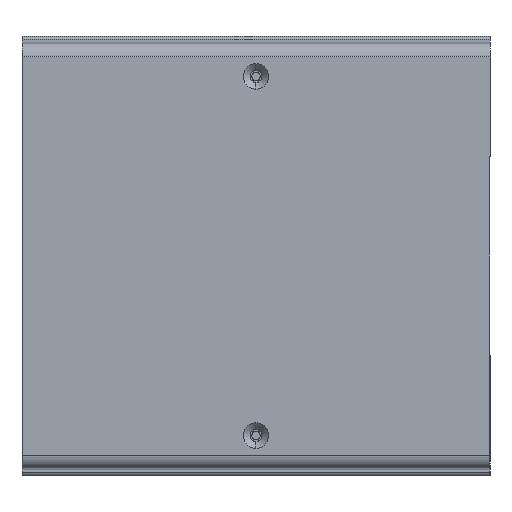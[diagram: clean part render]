
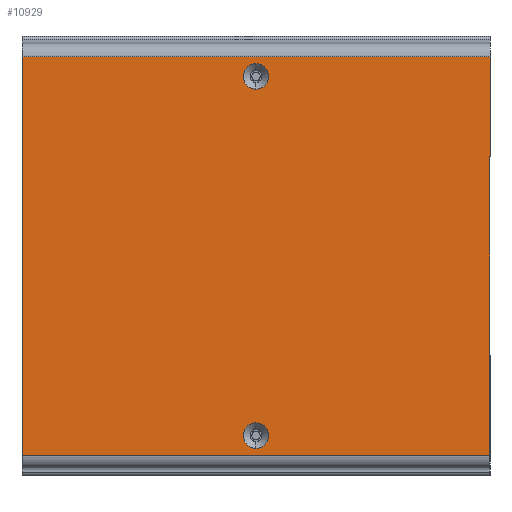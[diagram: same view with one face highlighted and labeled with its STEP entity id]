
A CAD part, front view. The second image highlights one B-rep face of the part: STEP entity #10929.
In plain terms, the highlighted planar face has unit normal (0, -1, 0).
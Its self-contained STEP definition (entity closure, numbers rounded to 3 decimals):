
#22 = CARTESIAN_POINT ( 'NONE',  ( 0., 0., 52.8 ) ) ;
#99 = CARTESIAN_POINT ( 'NONE',  ( 0., 0., 49.05 ) ) ;
#519 = DIRECTION ( 'NONE',  ( 0., 1., 0. ) ) ;
#740 = ORIENTED_EDGE ( 'NONE', *, *, #10248, .T. ) ;
#946 = CARTESIAN_POINT ( 'NONE',  ( -68.8, 0., -63. ) ) ;
#955 = EDGE_CURVE ( 'NONE', #7701, #10399, #10301, .T. ) ;
#974 = EDGE_LOOP ( 'NONE', ( #10434, #740, #7315, #4525 ) ) ;
#1003 = VECTOR ( 'NONE', #10428, 1000. ) ;
#1266 = DIRECTION ( 'NONE',  ( 0., 0., 1. ) ) ;
#1711 = CARTESIAN_POINT ( 'NONE',  ( 0., 0., -56.55 ) ) ;
#1760 = VECTOR ( 'NONE', #2900, 1000. ) ;
#1911 = EDGE_CURVE ( 'NONE', #2581, #7980, #5297, .T. ) ;
#2010 = LINE ( 'NONE', #8538, #7130 ) ;
#2216 = CARTESIAN_POINT ( 'NONE',  ( 68.8, 0., 58.537 ) ) ;
#2376 = CARTESIAN_POINT ( 'NONE',  ( 68.8, 0., -58.537 ) ) ;
#2581 = VERTEX_POINT ( 'NONE', #5427 ) ;
#2896 = DIRECTION ( 'NONE',  ( 0., 1., 0. ) ) ;
#2900 = DIRECTION ( 'NONE',  ( 0., 0., 1. ) ) ;
#3063 = CARTESIAN_POINT ( 'NONE',  ( -68.8, 0., -58.537 ) ) ;
#3421 = DIRECTION ( 'NONE',  ( 0., 1., 0. ) ) ;
#3484 = DIRECTION ( 'NONE',  ( 0., 0., 1. ) ) ;
#3550 = AXIS2_PLACEMENT_3D ( 'NONE', #22, #2896, #10381 ) ;
#3678 = CARTESIAN_POINT ( 'NONE',  ( -68.8, 0., 58.537 ) ) ;
#3712 = EDGE_LOOP ( 'NONE', ( #10862, #6698 ) ) ;
#3870 = LINE ( 'NONE', #946, #1760 ) ;
#4456 = VERTEX_POINT ( 'NONE', #9706 ) ;
#4496 = EDGE_CURVE ( 'NONE', #6724, #5555, #11024, .T. ) ;
#4525 = ORIENTED_EDGE ( 'NONE', *, *, #10756, .T. ) ;
#4719 = DIRECTION ( 'NONE',  ( 1., 0., 0. ) ) ;
#5297 = CIRCLE ( 'NONE', #3550, 3.75 ) ;
#5366 = FACE_OUTER_BOUND ( 'NONE', #974, .T. ) ;
#5397 = CARTESIAN_POINT ( 'NONE',  ( 0., 0., 52.8 ) ) ;
#5427 = CARTESIAN_POINT ( 'NONE',  ( 0., 0., 56.55 ) ) ;
#5450 = EDGE_CURVE ( 'NONE', #7980, #2581, #9481, .T. ) ;
#5459 = DIRECTION ( 'NONE',  ( 0., 0., 1. ) ) ;
#5555 = VERTEX_POINT ( 'NONE', #8107 ) ;
#6355 = ORIENTED_EDGE ( 'NONE', *, *, #1911, .T. ) ;
#6402 = CIRCLE ( 'NONE', #7580, 3.75 ) ;
#6533 = AXIS2_PLACEMENT_3D ( 'NONE', #5397, #10012, #5459 ) ;
#6663 = CARTESIAN_POINT ( 'NONE',  ( 68.8, 0., -63. ) ) ;
#6698 = ORIENTED_EDGE ( 'NONE', *, *, #7394, .T. ) ;
#6724 = VERTEX_POINT ( 'NONE', #1711 ) ;
#7091 = FACE_BOUND ( 'NONE', #10265, .T. ) ;
#7092 = DIRECTION ( 'NONE',  ( 0., 1., 0. ) ) ;
#7130 = VECTOR ( 'NONE', #4719, 1000. ) ;
#7157 = CARTESIAN_POINT ( 'NONE',  ( 0., 0., -52.8 ) ) ;
#7218 = PLANE ( 'NONE',  #10492 ) ;
#7315 = ORIENTED_EDGE ( 'NONE', *, *, #955, .F. ) ;
#7394 = EDGE_CURVE ( 'NONE', #5555, #6724, #6402, .T. ) ;
#7580 = AXIS2_PLACEMENT_3D ( 'NONE', #7157, #7092, #10926 ) ;
#7701 = VERTEX_POINT ( 'NONE', #2216 ) ;
#7980 = VERTEX_POINT ( 'NONE', #99 ) ;
#8107 = CARTESIAN_POINT ( 'NONE',  ( 0., 0., -49.05 ) ) ;
#8538 = CARTESIAN_POINT ( 'NONE',  ( -68.8, 0., -58.537 ) ) ;
#8903 = VECTOR ( 'NONE', #11185, 1000. ) ;
#9189 = EDGE_CURVE ( 'NONE', #10813, #4456, #3870, .T. ) ;
#9481 = CIRCLE ( 'NONE', #6533, 3.75 ) ;
#9706 = CARTESIAN_POINT ( 'NONE',  ( -68.8, 0., 58.537 ) ) ;
#10012 = DIRECTION ( 'NONE',  ( 0., 1., 0. ) ) ;
#10248 = EDGE_CURVE ( 'NONE', #10813, #10399, #2010, .T. ) ;
#10265 = EDGE_LOOP ( 'NONE', ( #12053, #6355 ) ) ;
#10301 = LINE ( 'NONE', #6663, #1003 ) ;
#10381 = DIRECTION ( 'NONE',  ( 0., 0., 1. ) ) ;
#10399 = VERTEX_POINT ( 'NONE', #2376 ) ;
#10428 = DIRECTION ( 'NONE',  ( 0., 0., -1. ) ) ;
#10434 = ORIENTED_EDGE ( 'NONE', *, *, #9189, .F. ) ;
#10492 = AXIS2_PLACEMENT_3D ( 'NONE', #10925, #3421, #3484 ) ;
#10643 = AXIS2_PLACEMENT_3D ( 'NONE', #11640, #519, #1266 ) ;
#10756 = EDGE_CURVE ( 'NONE', #7701, #4456, #12118, .T. ) ;
#10813 = VERTEX_POINT ( 'NONE', #3063 ) ;
#10855 = FACE_BOUND ( 'NONE', #3712, .T. ) ;
#10862 = ORIENTED_EDGE ( 'NONE', *, *, #4496, .T. ) ;
#10925 = CARTESIAN_POINT ( 'NONE',  ( -68.8, 0., 63. ) ) ;
#10926 = DIRECTION ( 'NONE',  ( 0., 0., 1. ) ) ;
#10929 = ADVANCED_FACE ( 'NONE', ( #10855, #7091, #5366 ), #7218, .F. ) ;
#11024 = CIRCLE ( 'NONE', #10643, 3.75 ) ;
#11185 = DIRECTION ( 'NONE',  ( -1., 0., 0. ) ) ;
#11640 = CARTESIAN_POINT ( 'NONE',  ( 0., 0., -52.8 ) ) ;
#12053 = ORIENTED_EDGE ( 'NONE', *, *, #5450, .T. ) ;
#12118 = LINE ( 'NONE', #3678, #8903 ) ;
